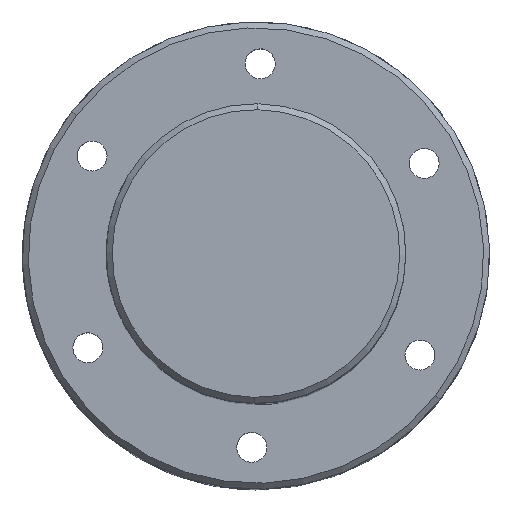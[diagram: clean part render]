
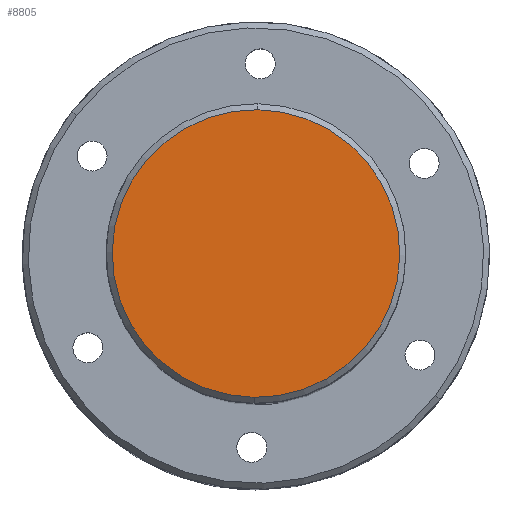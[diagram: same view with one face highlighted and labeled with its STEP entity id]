
A CAD part, top view. The second image highlights one B-rep face of the part: STEP entity #8805.
In plain terms, the highlighted planar face has unit normal (0, 0, 1) as drawn and (-1, 0, 0) by its records, which use the part's own axes.
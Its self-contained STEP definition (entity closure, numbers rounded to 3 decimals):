
#1139 = CARTESIAN_POINT ( 'NONE',  ( 0., 0., 24. ) ) ;
#3278 = AXIS2_PLACEMENT_3D ( 'NONE', #11844, #16544, #15055 ) ;
#3569 = VERTEX_POINT ( 'NONE', #1139 ) ;
#5430 = PLANE ( 'NONE',  #11518 ) ;
#6142 = ORIENTED_EDGE ( 'NONE', *, *, #17609, .T. ) ;
#8453 = EDGE_CURVE ( 'NONE', #17593, #3569, #20400, .T. ) ;
#8805 = ADVANCED_FACE ( 'NONE', ( #17754 ), #5430, .F. ) ;
#10432 = CIRCLE ( 'NONE', #21070, 24. ) ;
#11082 = ORIENTED_EDGE ( 'NONE', *, *, #8453, .T. ) ;
#11444 = DIRECTION ( 'NONE',  ( 0., 0., -1. ) ) ;
#11518 = AXIS2_PLACEMENT_3D ( 'NONE', #17273, #11522, #14671 ) ;
#11522 = DIRECTION ( 'NONE',  ( 1., 0., 0. ) ) ;
#11844 = CARTESIAN_POINT ( 'NONE',  ( 0., 0., 0. ) ) ;
#13070 = CARTESIAN_POINT ( 'NONE',  ( 0., 0., 0. ) ) ;
#14506 = EDGE_LOOP ( 'NONE', ( #11082, #6142 ) ) ;
#14671 = DIRECTION ( 'NONE',  ( 0., 0., -1. ) ) ;
#15055 = DIRECTION ( 'NONE',  ( 0., 0., -1. ) ) ;
#16544 = DIRECTION ( 'NONE',  ( -1., 0., 0. ) ) ;
#17273 = CARTESIAN_POINT ( 'NONE',  ( 0., 0., 0. ) ) ;
#17593 = VERTEX_POINT ( 'NONE', #20839 ) ;
#17609 = EDGE_CURVE ( 'NONE', #3569, #17593, #10432, .T. ) ;
#17754 = FACE_OUTER_BOUND ( 'NONE', #14506, .T. ) ;
#19898 = DIRECTION ( 'NONE',  ( -1., 0., 0. ) ) ;
#20400 = CIRCLE ( 'NONE', #3278, 24. ) ;
#20839 = CARTESIAN_POINT ( 'NONE',  ( 0., 0., -24. ) ) ;
#21070 = AXIS2_PLACEMENT_3D ( 'NONE', #13070, #19898, #11444 ) ;
